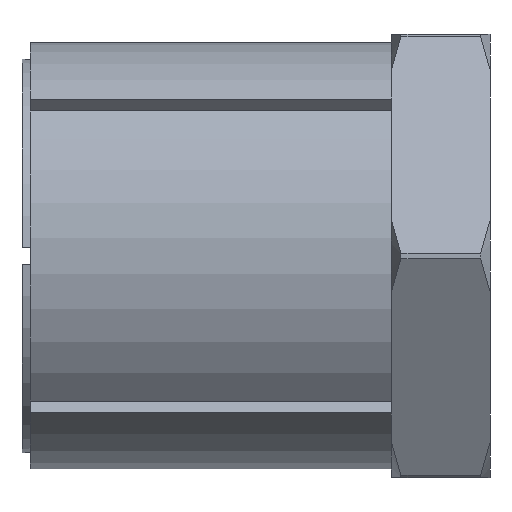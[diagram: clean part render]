
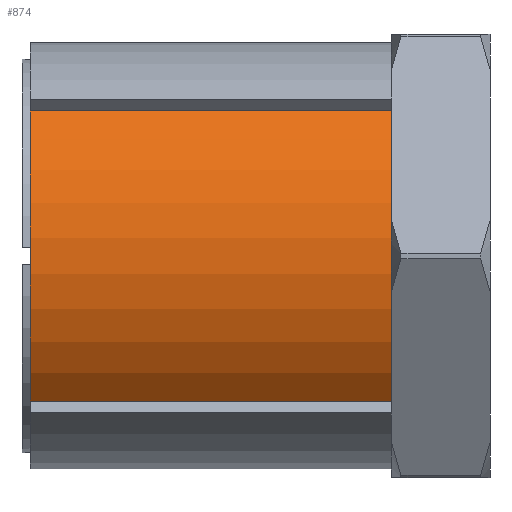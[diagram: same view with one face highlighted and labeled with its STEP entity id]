
A CAD part, front view. The second image highlights one B-rep face of the part: STEP entity #874.
In plain terms, the highlighted cylindrical face has radius 13 mm (diameter 26 mm), a partial arc.
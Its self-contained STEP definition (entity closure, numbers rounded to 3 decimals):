
#37 = CARTESIAN_POINT ( 'NONE',  ( 0., -9.539, 8.832 ) ) ;
#68 = CARTESIAN_POINT ( 'NONE',  ( 22., -9.539, 8.832 ) ) ;
#73 = CARTESIAN_POINT ( 'NONE',  ( 0., -9.539, -8.832 ) ) ;
#82 = CARTESIAN_POINT ( 'NONE',  ( 22., -9.539, -8.832 ) ) ;
#260 = CARTESIAN_POINT ( 'NONE',  ( 0., -9.539, -8.832 ) ) ;
#261 = DIRECTION ( 'NONE',  ( 1., 0., 0. ) ) ;
#262 = CARTESIAN_POINT ( 'NONE',  ( 22., 0., 0. ) ) ;
#264 = DIRECTION ( 'NONE',  ( -1., 0., 0. ) ) ;
#265 = DIRECTION ( 'NONE',  ( 0., 0., 1. ) ) ;
#433 = CARTESIAN_POINT ( 'NONE',  ( 0., 0., 0. ) ) ;
#454 = CARTESIAN_POINT ( 'NONE',  ( 0., -9.539, 8.832 ) ) ;
#455 = DIRECTION ( 'NONE',  ( -1., 0., 0. ) ) ;
#459 = DIRECTION ( 'NONE',  ( -1., 0., 0. ) ) ;
#460 = DIRECTION ( 'NONE',  ( 0., 0., 1. ) ) ;
#705 = ORIENTED_EDGE ( 'NONE', *, *, #2265, .T. ) ;
#733 = ORIENTED_EDGE ( 'NONE', *, *, #2341, .F. ) ;
#737 = ORIENTED_EDGE ( 'NONE', *, *, #2339, .T. ) ;
#738 = ORIENTED_EDGE ( 'NONE', *, *, #2266, .T. ) ;
#874 = ADVANCED_FACE ( 'NONE', ( #1179 ), #1187, .T. ) ;
#1179 = FACE_OUTER_BOUND ( 'NONE', #1647, .T. ) ;
#1187 = CYLINDRICAL_SURFACE ( 'NONE', #2381, 13. ) ;
#1411 = LINE ( 'NONE', #260, #1415 ) ;
#1415 = VECTOR ( 'NONE', #261, 1000. ) ;
#1419 = CIRCLE ( 'NONE', #2480, 13. ) ;
#1528 = LINE ( 'NONE', #454, #1529 ) ;
#1529 = VECTOR ( 'NONE', #455, 1000. ) ;
#1534 = CIRCLE ( 'NONE', #2501, 13. ) ;
#1647 = EDGE_LOOP ( 'NONE', ( #738, #737, #733, #705 ) ) ;
#1809 = CARTESIAN_POINT ( 'NONE',  ( 0., 0., 0. ) ) ;
#1810 = DIRECTION ( 'NONE',  ( -1., 0., 0. ) ) ;
#1814 = DIRECTION ( 'NONE',  ( 0., 0., 1. ) ) ;
#2035 = VERTEX_POINT ( 'NONE', #82 ) ;
#2043 = VERTEX_POINT ( 'NONE', #73 ) ;
#2048 = VERTEX_POINT ( 'NONE', #68 ) ;
#2072 = VERTEX_POINT ( 'NONE', #37 ) ;
#2265 = EDGE_CURVE ( 'NONE', #2043, #2035, #1411, .T. ) ;
#2266 = EDGE_CURVE ( 'NONE', #2035, #2048, #1419, .T. ) ;
#2339 = EDGE_CURVE ( 'NONE', #2048, #2072, #1528, .T. ) ;
#2341 = EDGE_CURVE ( 'NONE', #2043, #2072, #1534, .T. ) ;
#2381 = AXIS2_PLACEMENT_3D ( 'NONE', #1809, #1810, #1814 ) ;
#2480 = AXIS2_PLACEMENT_3D ( 'NONE', #262, #264, #265 ) ;
#2501 = AXIS2_PLACEMENT_3D ( 'NONE', #433, #459, #460 ) ;
